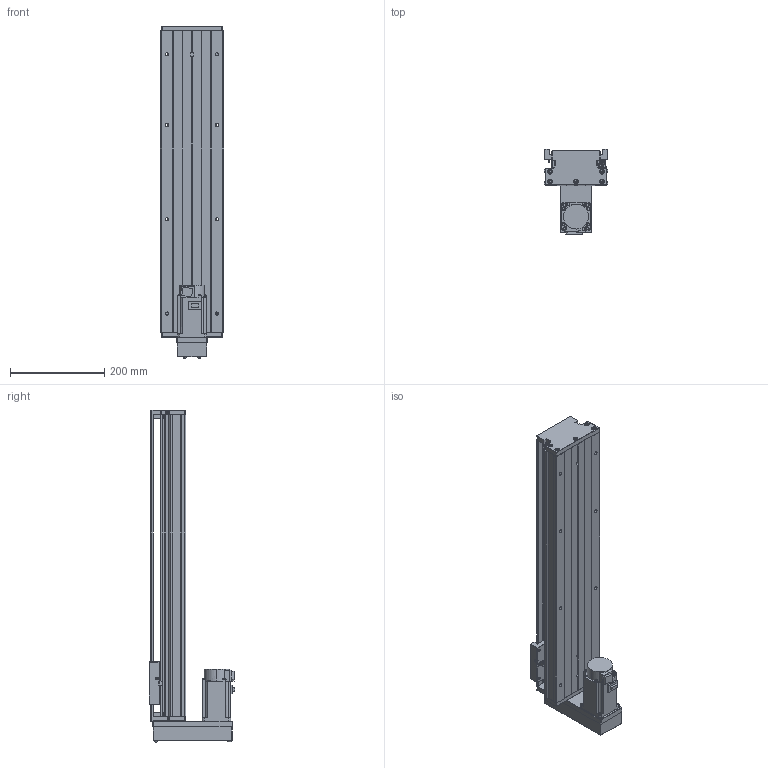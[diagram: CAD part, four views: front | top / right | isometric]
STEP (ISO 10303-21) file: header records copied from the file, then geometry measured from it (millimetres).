
FILE_DESCRIPTION (( 'STEP AP203' ), '1' );
FILE_NAME ('KTH130-500-BM-M40-C4.step', '2023-06-30T04:04:55', ( '微软用户' ), ( '微软中国' ), 'SwSTEP 2.0', 'SolidWorks 2020', '' );
FILE_SCHEMA (( 'CONFIG_CONTROL_DESIGN' ));
Length unit declared in the file: millimetre
Products named in the file (19): GB1155-6X6; GBT77-2000 M3×3; KTH130-500-BM-M40-C4; GBT70.1 M5℅16; す晦芛蹟隊 M3℅5; GBT 70.2-M3¡Á5_M3¡Á6; GBT 70.3-M3℅8; GTH14-001_500; CTHA60-017; HG-KN43J-S100; KTH130-002_KTH130-002; EE_SX911P_R; GBT 70.2-M4¡Á35_M4¡Á35; KTH130-004; CTHA60-016; GTH14-015-2_CTHA86-015-2; KTH130-005; GBT 70.1-M3℅5; GTH14-033
Assembly tree (53 placements, depth 2):
  KTH130-500-BM-M40-C4
    GTH14-001_500
    KTH130-002_KTH130-002
    KTH130-004
    KTH130-005
    GB1155-6X6  x2
    GBT70.1 M5℅16  x10
    GBT 70.2-M3¡Á5_M3¡Á6  x4
    CTHA60-017  x3
    EE_SX911P_R  x3
    CTHA60-016  x2
    GBT 70.1-M3℅5  x6
    GBT77-2000 M3×3  x6
    す晦芛蹟隊 M3℅5  x2
    GBT 70.3-M3℅8  x4
    HG-KN43J-S100
    GBT 70.2-M4¡Á35_M4¡Á35  x4
    GTH14-015-2_CTHA86-015-2
    GTH14-033
Bounding box: 135 x 181.8 x 704.2 mm (x, y, z)
Volume: 4131345.3 mm3; surface area: 693733.1 mm2
Topology: 56 solids, 56 shells, 2213 faces, 5342 edges, 3326 vertices
Faces by surface type: plane 1195, cylinder 604, cone 290, torus 100, sphere 24
Entity records: 40250 total; most frequent: CARTESIAN_POINT 8584, DIRECTION 5979, ORIENTED_EDGE 5884, EDGE_CURVE 2942, AXIS2_PLACEMENT_3D 2052, VERTEX_POINT 1879, LINE 1875, VECTOR 1875
